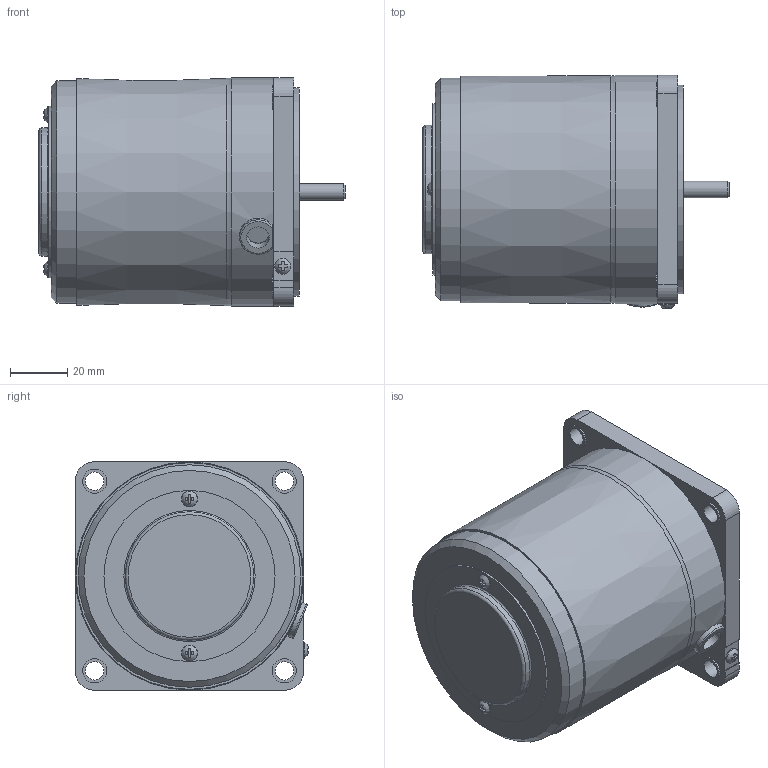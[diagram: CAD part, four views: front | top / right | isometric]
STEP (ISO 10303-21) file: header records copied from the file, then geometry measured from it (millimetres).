
FILE_DESCRIPTION(/* description */ (''),/* implementation_level */ '2;1');
FILE_NAME(/* name */ 'E:\도면작업\2016\0704) 미주향 SG 도면\3D MOTOR\SG6R\SG8R25G\SG8R25G_.stp',/* time_stamp */ '2016-12-12T16:30:49+09:00',/* author */ ('jy-jung'),/* organization */ (''),/* preprocessor_version */ 'ST-DEVELOPER v15.6',/* originating_system */ 'Autodesk Inventor 2015',/* authorisation */ '');
FILE_SCHEMA (('AUTOMOTIVE_DESIGN { 1 0 10303 214 3 1 1 }'));
Length unit declared in the file: millimetre
Products named in the file (1): 부품5
Bounding box: 107.3 x 81.76 x 80 mm (x, y, z)
Volume: 429786.7 mm3; surface area: 41115.1 mm2
Topology: 1 solids, 5 shells, 159 faces, 378 edges, 248 vertices
Faces by surface type: plane 102, cylinder 41, torus 10, bspline 3, cone 3
Full cylindrical faces by diameter (mm): 3 x2, 3.5 x2, 5.6 x3, 5.72 x1, 6.5 x4, 8 x1, 8.5 x4, 34 x1, 43 x1, 45 x1, 60 x1, 73 x1, 78 x1, 80 x1
Entity records: 4855 total; most frequent: CARTESIAN_POINT 1108, DIRECTION 714, ORIENTED_EDGE 680, EDGE_CURVE 340, AXIS2_PLACEMENT_3D 264, VERTEX_POINT 246, EDGE_LOOP 226, LINE 186
